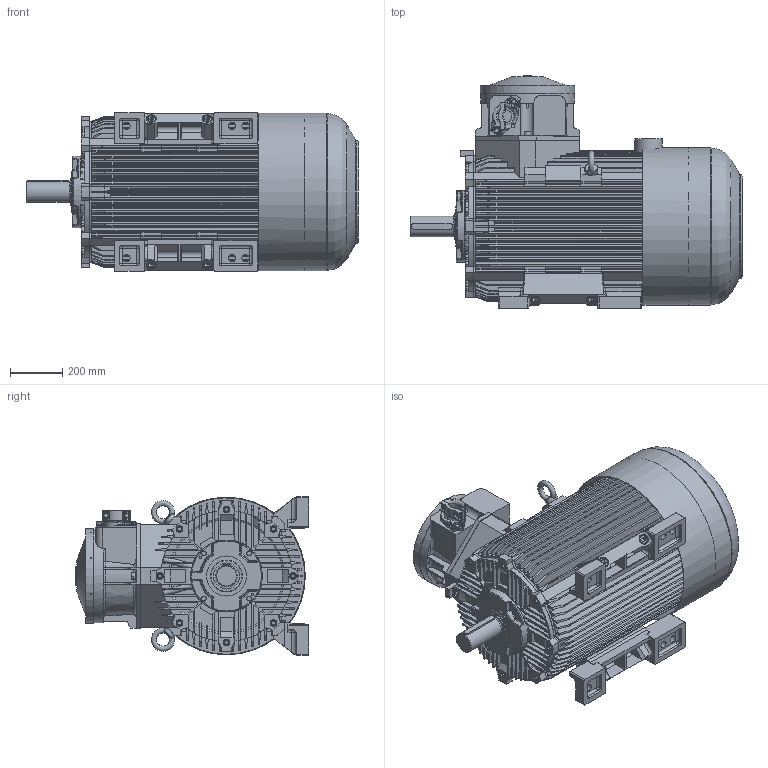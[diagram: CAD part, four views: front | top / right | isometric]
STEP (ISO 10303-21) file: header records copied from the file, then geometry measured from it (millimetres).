
FILE_DESCRIPTION(/* description */ ('Unknown'),/* implementation_level */ '2;1');
FILE_NAME(/* name */ 'cSTe(b)315S(4,6,8), M(6,8)A-N-IE(2,3)',/* time_stamp */ '2022-04-19T13:45:19+02:00',/* author */ ('Unknown'),/* organization */ ('Unknown'),/* preprocessor_version */ 'ST-DEVELOPER v16.7',/* originating_system */ 'DEX',/* authorisation */ $);
FILE_SCHEMA (('AUTOMOTIVE_DESIGN {1 0 10303 214 3 1 1}'));
Length unit declared in the file: millimetre
Products named in the file (1): cSTe(b)315S(4,6,8), M(6,8)A-N-IE(2,3)
Bounding box: 1274.5 x 895 x 610 mm (x, y, z)
Volume: 277720181.4 mm3; surface area: 7425536.7 mm2
Topology: 1 solids, 56 shells, 3155 faces, 8217 edges, 5225 vertices
Faces by surface type: plane 1546, cylinder 947, cone 314, torus 178, bspline 107, sphere 63
Full cylindrical faces by diameter (mm): 2.459 x4, 3 x4, 6 x2, 6.3 x1, 8.16 x6, 8.376 x12, 8.917 x2, 9.853 x8, 10 x10, 10.106 x8, 11 x6, 12 x18, 13.5 x8, 13.546 x4, 13.835 x8, 14.63 x8, 16 x16, 17.5 x12, 18 x8, 20.319 x4, 20.752 x4, 22 x8, 24 x20, 26 x12, 28 x6, 36 x4, 40 x4, 50 x3, 67 x1, 80 x1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
Entity records: 120778 total; most frequent: CARTESIAN_POINT 24085, DIRECTION 15488, ORIENTED_EDGE 15308, EDGE_CURVE 7654, AXIS2_PLACEMENT_3D 5819, VERTEX_POINT 5049, LINE 3850, VECTOR 3850
